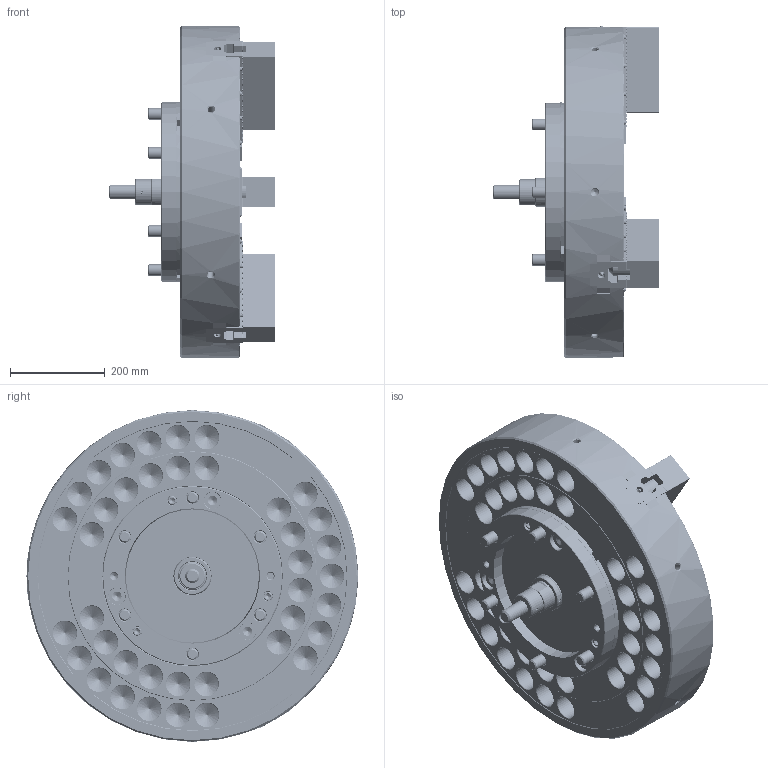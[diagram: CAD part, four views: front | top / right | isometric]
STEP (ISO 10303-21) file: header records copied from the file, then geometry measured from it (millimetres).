
FILE_DESCRIPTION (( 'STEP AP214' ), '1' );
FILE_NAME ('DT1_NV28C15_OUTSIDE_VIEW_UC.STEP', '2026-03-24T05:20:08', ( '' ), ( '' ), 'SwSTEP 2.0', 'SolidWorks 2022', '' );
FILE_SCHEMA (( 'AUTOMOTIVE_DESIGN' ));
Length unit declared in the file: millimetre
Products named in the file (18): DT1_NV28C15_BP^DT1_NV28C1500; DT1_NV28C15_M24x160^DT1_NV28C1500; DT1_NV28C15_SOFTJAW^DT1_NV28C1500; Copy of 61P321208^DT1_NV28C1500; DT1_NV28C15_BASE^DT1_NV28C1500; DT1_NV28C15_DRAWSCREW^DT1_NV28C1500; DT1_NV28C15_COVER^DT1_NV28C1500; DT1_NV28C15_TNUT^DT1_NV28C1500; DT1_NV28C15_DN^DT1_NV28C1500; DT1_NV28C15_COVERFOOTER^DT1_NV28C1500; DT1_NV28C15_ORING^DT1_NV28C1500; DT1_NV28C15_M20x60^DT1_NV28C1500; DT1_NV28C15_OUTSIDE_VIEW_UC; DT1_NV28C15_S39^DT1_NV28C1500_円筒用; DT1_NV28C15_M6x12^DT1_NV28C1500; DT1_NV28C15_CAP^DT1_NV28C1500; Copy of 0030112055^DT1_NV28C1500; DT1_NV28C15_P80^DT1_NV28C1500_円筒用
Assembly tree (48 placements, depth 2):
  DT1_NV28C15_OUTSIDE_VIEW_UC
    DT1_NV28C15_SOFTJAW^DT1_NV28C1500  x3
    DT1_NV28C15_TNUT^DT1_NV28C1500  x6
    DT1_NV28C15_COVER^DT1_NV28C1500
    DT1_NV28C15_DRAWSCREW^DT1_NV28C1500
    Copy of 61P321208^DT1_NV28C1500
    DT1_NV28C15_COVERFOOTER^DT1_NV28C1500
    DT1_NV28C15_M6x12^DT1_NV28C1500  x6
    Copy of 0030112055^DT1_NV28C1500  x3
    DT1_NV28C15_M20x60^DT1_NV28C1500  x6
    DT1_NV28C15_M24x160^DT1_NV28C1500  x6
    DT1_NV28C15_S39^DT1_NV28C1500_円筒用
    DT1_NV28C15_P80^DT1_NV28C1500_円筒用
    DT1_NV28C15_CAP^DT1_NV28C1500  x6
    DT1_NV28C15_ORING^DT1_NV28C1500  x3
    DT1_NV28C15_DN^DT1_NV28C1500
    DT1_NV28C15_BP^DT1_NV28C1500
    DT1_NV28C15_BASE^DT1_NV28C1500
Bounding box: 352 x 701.6 x 700 mm (x, y, z)
Volume: 47098773.2 mm3; surface area: 2874439.9 mm2
Topology: 48 solids, 114 shells, 10537 faces, 29314 edges, 19059 vertices
Faces by surface type: plane 6153, cylinder 2112, cone 1076, bspline 1042, torus 148, sphere 6
Entity records: 303713 total; most frequent: CARTESIAN_POINT 94382, ORIENTED_EDGE 46668, DIRECTION 37954, EDGE_CURVE 23334, VECTOR 16434, LINE 16434, VERTEX_POINT 15313, AXIS2_PLACEMENT_3D 10760
